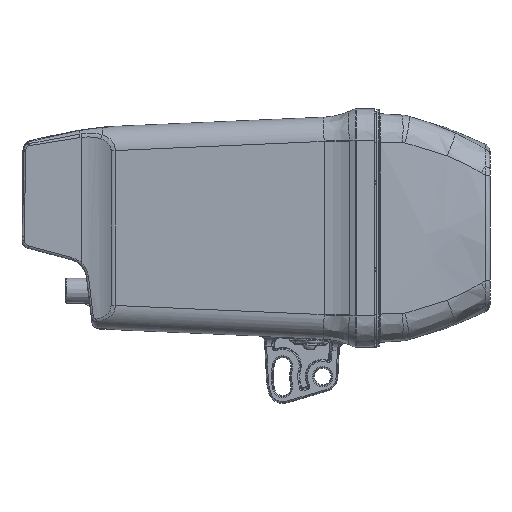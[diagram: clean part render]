
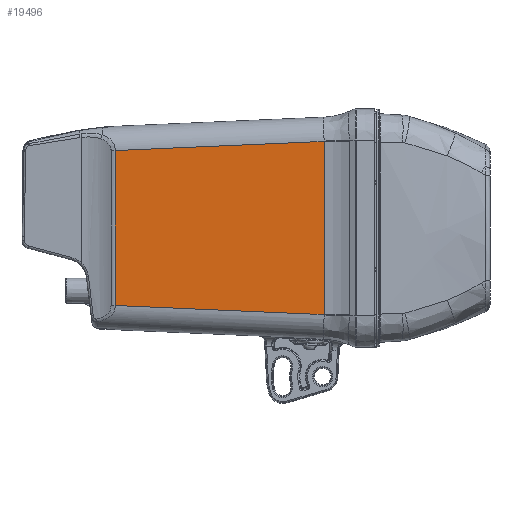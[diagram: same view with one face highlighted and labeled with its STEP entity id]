
A CAD part, front view. The second image highlights one B-rep face of the part: STEP entity #19496.
In plain terms, the highlighted planar face has unit normal (-0.044, -0.999, 0).
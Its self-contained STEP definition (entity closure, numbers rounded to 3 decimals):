
#19437=AXIS2_PLACEMENT_3D('Plane Axis2P3D',#19434,#19435,#19436) ;
#15481=CARTESIAN_POINT('Vertex',(101.398,-38.222,-45.333)) ;
#15484=CARTESIAN_POINT('Line Origine',(51.985,-36.064,-43.176)) ;
#15488=CARTESIAN_POINT('Vertex',(-1.839,-33.714,-40.826)) ;
#19434=CARTESIAN_POINT('Axis2P3D Location',(116.869,-38.897,-2.5)) ;
#19439=CARTESIAN_POINT('Line Origine',(101.398,-38.222,-2.5)) ;
#19443=CARTESIAN_POINT('Vertex',(101.398,-38.222,40.333)) ;
#19447=CARTESIAN_POINT('Control Point',(101.398,-38.222,40.333)) ;
#19448=CARTESIAN_POINT('Control Point',(-1.839,-33.714,35.826)) ;
#19449=CARTESIAN_POINT('Vertex',(-1.839,-33.714,35.826)) ;
#19453=CARTESIAN_POINT('Control Point',(-1.839,-33.714,35.826)) ;
#19454=CARTESIAN_POINT('Control Point',(-1.839,-33.714,35.118)) ;
#19455=CARTESIAN_POINT('Control Point',(-1.84,-33.714,34.407)) ;
#19456=CARTESIAN_POINT('Control Point',(-1.839,-33.714,33.695)) ;
#19457=CARTESIAN_POINT('Control Point',(-1.839,-33.714,32.268)) ;
#19458=CARTESIAN_POINT('Control Point',(-1.839,-33.714,30.834)) ;
#19459=CARTESIAN_POINT('Control Point',(-1.839,-33.714,30.116)) ;
#19460=CARTESIAN_POINT('Control Point',(-1.839,-33.714,27.956)) ;
#19461=CARTESIAN_POINT('Control Point',(-1.839,-33.714,25.784)) ;
#19462=CARTESIAN_POINT('Control Point',(-1.839,-33.714,24.331)) ;
#19463=CARTESIAN_POINT('Control Point',(-1.839,-33.714,19.96)) ;
#19464=CARTESIAN_POINT('Control Point',(-1.839,-33.714,15.554)) ;
#19465=CARTESIAN_POINT('Control Point',(-1.839,-33.714,12.605)) ;
#19466=CARTESIAN_POINT('Control Point',(-1.839,-33.714,3.722)) ;
#19467=CARTESIAN_POINT('Control Point',(-1.839,-33.714,-5.262)) ;
#19468=CARTESIAN_POINT('Control Point',(-1.839,-33.714,-11.291)) ;
#19469=CARTESIAN_POINT('Control Point',(-1.839,-33.714,-19.084)) ;
#19470=CARTESIAN_POINT('Control Point',(-1.839,-33.714,-26.89)) ;
#19471=CARTESIAN_POINT('Control Point',(-1.839,-33.714,-28.612)) ;
#19472=CARTESIAN_POINT('Control Point',(-1.839,-33.714,-31.194)) ;
#19473=CARTESIAN_POINT('Control Point',(-1.839,-33.714,-33.777)) ;
#19474=CARTESIAN_POINT('Control Point',(-1.839,-33.714,-34.637)) ;
#19475=CARTESIAN_POINT('Control Point',(-1.839,-33.714,-35.928)) ;
#19476=CARTESIAN_POINT('Control Point',(-1.839,-33.714,-37.219)) ;
#19477=CARTESIAN_POINT('Control Point',(-1.839,-33.714,-37.649)) ;
#19478=CARTESIAN_POINT('Control Point',(-1.839,-33.714,-38.294)) ;
#19479=CARTESIAN_POINT('Control Point',(-1.839,-33.714,-38.939)) ;
#19480=CARTESIAN_POINT('Control Point',(-1.839,-33.714,-39.154)) ;
#19481=CARTESIAN_POINT('Control Point',(-1.839,-33.714,-39.531)) ;
#19482=CARTESIAN_POINT('Control Point',(-1.839,-33.714,-39.907)) ;
#19483=CARTESIAN_POINT('Control Point',(-1.839,-33.714,-40.069)) ;
#19484=CARTESIAN_POINT('Control Point',(-1.839,-33.714,-40.284)) ;
#19485=CARTESIAN_POINT('Control Point',(-1.839,-33.714,-40.499)) ;
#19486=CARTESIAN_POINT('Control Point',(-1.839,-33.714,-40.719)) ;
#19487=CARTESIAN_POINT('Control Point',(-1.839,-33.714,-40.772)) ;
#19488=CARTESIAN_POINT('Control Point',(-1.839,-33.714,-40.826)) ;
#15485=DIRECTION('Vector Direction',(-0.998,0.044,0.044)) ;
#19435=DIRECTION('Axis2P3D Direction',(-0.044,-0.999,-0.)) ;
#19436=DIRECTION('Axis2P3D XDirection',(0.,0.,-1.)) ;
#19440=DIRECTION('Vector Direction',(0.,0.,-1.)) ;
#15486=VECTOR('Line Direction',#15485,1.) ;
#19441=VECTOR('Line Direction',#19440,1.) ;
#19491=ORIENTED_EDGE('',*,*,#19445,.T.) ;
#19492=ORIENTED_EDGE('',*,*,#19451,.T.) ;
#19493=ORIENTED_EDGE('',*,*,#19489,.F.) ;
#19494=ORIENTED_EDGE('',*,*,#15490,.F.) ;
#19496=ADVANCED_FACE('SIGNAL_PROJECTION_LAMP_MD12/48_996200-10',(#19495),#19438,.T.) ;
#19446=B_SPLINE_CURVE_WITH_KNOTS('',1,(#19447,#19448),.UNSPECIFIED.,.F.,.U.,(2,2),(-67.025,36.408),.UNSPECIFIED.) ;
#19452=B_SPLINE_CURVE_WITH_KNOTS('',5,(#19453,#19454,#19455,#19456,#19457,#19458,#19459,#19460,#19461,#19462,#19463,#19464,#19465,#19466,#19467,#19468,#19469,#19470,#19471,#19472,#19473,#19474,#19475,#19476,#19477,#19478,#19479,#19480,#19481,#19482,#19483,#19484,#19485,#19486,#19487,#19488),.UNSPECIFIED.,.F.,.U.,(6,3,3,3,3,3,3,3,3,3,3,6),(19.782,26.255,32.728,45.674,71.566,123.349,138.,145.326,148.988,150.82,152.195,152.651),.UNSPECIFIED.) ;
#15490=EDGE_CURVE('',#15482,#15489,#15487,.T.) ;
#19445=EDGE_CURVE('',#15482,#19444,#19442,.F.) ;
#19451=EDGE_CURVE('',#19444,#19450,#19446,.T.) ;
#19489=EDGE_CURVE('',#15489,#19450,#19452,.F.) ;
#19490=EDGE_LOOP('',(#19491,#19492,#19493,#19494)) ;
#19495=FACE_OUTER_BOUND('',#19490,.T.) ;
#15487=LINE('Line',#15484,#15486) ;
#19442=LINE('Line',#19439,#19441) ;
#19438=PLANE('',#19437) ;
#15482=VERTEX_POINT('',#15481) ;
#15489=VERTEX_POINT('',#15488) ;
#19444=VERTEX_POINT('',#19443) ;
#19450=VERTEX_POINT('',#19449) ;
